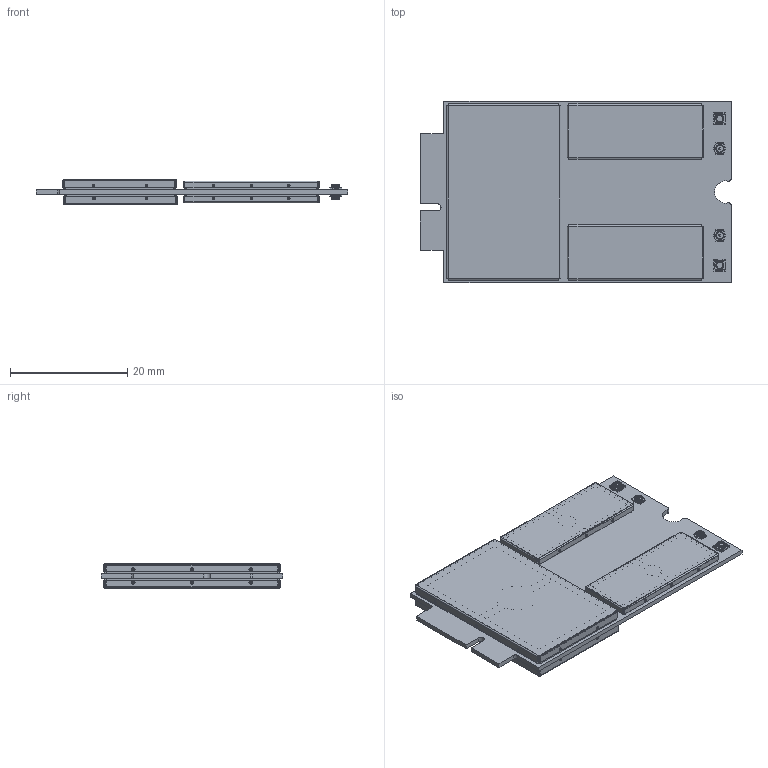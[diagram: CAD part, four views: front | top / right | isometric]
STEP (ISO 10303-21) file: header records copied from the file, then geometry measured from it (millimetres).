
FILE_DESCRIPTION((''),'2;1');
FILE_NAME('MD2_9074_ASM','2024-03-29T15:16:31',('kevinsm.chang'),(''),'CREO PARAMETRIC BY PTC INC, 2021284','CREO PARAMETRIC BY PTC INC, 2021284','');
FILE_SCHEMA(('CONFIG_CONTROL_DESIGN'));
Length unit declared in the file: millimetre
Products named in the file (25): MD2_9074_1; TOP_0316; BOT_0316; 9074_A-FRAME_FIH; 9074_A-CASE_FIH; 9074_A-CASE_ASM_FIH_ASM; A-CASE_ASM_ASM; 9074_B-FRAME_FIH; 9074_B-CASE_FIH; B-CASE_ASM_4_ASM; 9074_C-FRAME_FIH; 9074_C_CASE_FIH; C_CASE_ASM_4_ASM; C_CASE_ASM_ASM; 4T4R_1ST_LOWER_SHIELDING_ASM; BOSS-EXTRUDE3_1_; CUT-EXTRUDE6; BOSS-EXTRUDE3_2_; EDGE-FLANGE2; CUT-EXTRUDE5; MM8030-2610RJ3_ASM; X_FL-R-SMT-1_1; ASSEMBLY-1_ASM; X_FL-R-SMT-1_ASM; MD2_9074_ASM
Assembly tree (32 placements, depth 5):
  MD2_9074_ASM
    MD2_9074_1
    TOP_0316
    BOT_0316
    4T4R_1ST_LOWER_SHIELDING_ASM
      A-CASE_ASM_ASM  x2
        9074_A-CASE_ASM_FIH_ASM
          9074_A-FRAME_FIH
          9074_A-CASE_FIH
      B-CASE_ASM_4_ASM  x2
        9074_B-FRAME_FIH
        9074_B-CASE_FIH
      C_CASE_ASM_ASM
        C_CASE_ASM_4_ASM
          9074_C-FRAME_FIH
          9074_C_CASE_FIH
    MM8030-2610RJ3_ASM  x4
      BOSS-EXTRUDE3_1_
      CUT-EXTRUDE6
      BOSS-EXTRUDE3_2_
      EDGE-FLANGE2
      CUT-EXTRUDE5
    X_FL-R-SMT-1_ASM  x4
      ASSEMBLY-1_ASM
        X_FL-R-SMT-1_1
Bounding box: 53 x 31 x 4.3 mm (x, y, z)
Volume: 1873 mm3; surface area: 10921 mm2
Topology: 35 solids, 35 shells, 1694 faces, 4240 edges, 2540 vertices
Faces by surface type: plane 939, cylinder 421, sphere 184, torus 108, cone 32, bspline 10
Entity records: 22663 total; most frequent: DIRECTION 4198, CARTESIAN_POINT 3898, ORIENTED_EDGE 3564, EDGE_CURVE 1782, AXIS2_PLACEMENT_3D 1594, VERTEX_POINT 1114, VECTOR 1010, LINE 1010
